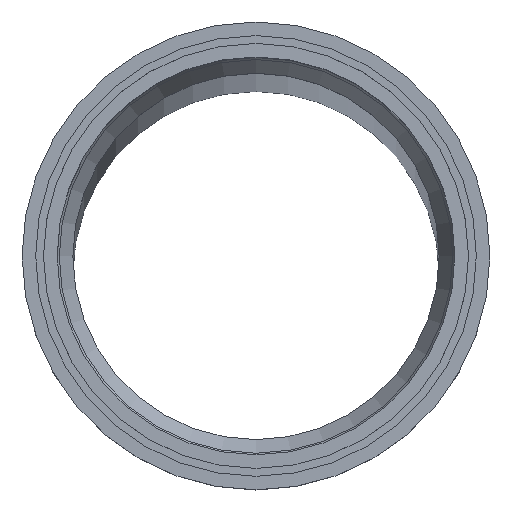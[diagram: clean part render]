
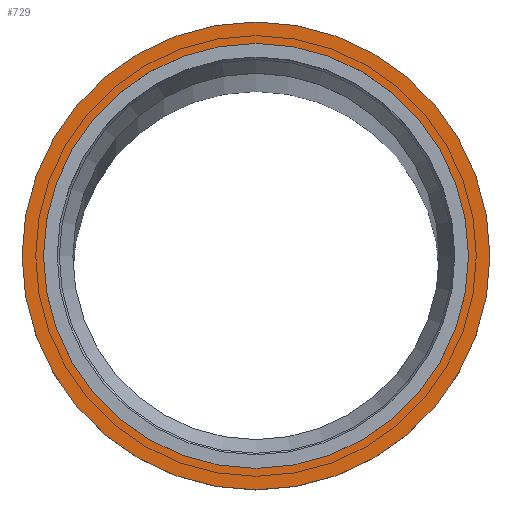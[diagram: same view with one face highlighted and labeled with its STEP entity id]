
A CAD part, top view. The second image highlights one B-rep face of the part: STEP entity #729.
In plain terms, the highlighted planar face has unit normal (0, 0, 1) as drawn and (1, 0, 0) by its records, which use the part's own axes.
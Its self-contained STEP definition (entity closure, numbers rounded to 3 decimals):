
#110=PLANE($,#811);
#138=FACE_BOUND($,#249,.T.);
#139=FACE_BOUND($,#250,.T.);
#249=EDGE_LOOP($,(#620));
#250=EDGE_LOOP($,(#621));
#299=CIRCLE($,#810,44.7);
#300=CIRCLE($,#812,40.6);
#370=VERTEX_POINT($,#1943);
#371=VERTEX_POINT($,#1946);
#457=EDGE_CURVE($,#370,#370,#299,.T.);
#458=EDGE_CURVE($,#371,#371,#300,.T.);
#620=ORIENTED_EDGE($,*,*,#458,.F.);
#621=ORIENTED_EDGE($,*,*,#457,.T.);
#729=ADVANCED_FACE($,(#138,#139),#110,.T.);
#810=AXIS2_PLACEMENT_3D($,#1944,#967,#968);
#811=AXIS2_PLACEMENT_3D($,#1945,#969,#970);
#812=AXIS2_PLACEMENT_3D($,#1947,#971,#972);
#967=DIRECTION('center_axis',(1.,0.,0.));
#968=DIRECTION('ref_axis',(0.,1.,0.));
#969=DIRECTION('center_axis',(1.,0.,0.));
#970=DIRECTION('ref_axis',(0.,0.,-1.));
#971=DIRECTION('center_axis',(1.,0.,0.));
#972=DIRECTION('ref_axis',(0.,1.,0.));
#1943=CARTESIAN_POINT('',(62.6,44.7,0.));
#1944=CARTESIAN_POINT('Origin',(62.6,0.,0.));
#1945=CARTESIAN_POINT('Origin',(62.6,42.65,0.));
#1946=CARTESIAN_POINT('',(62.6,40.6,0.));
#1947=CARTESIAN_POINT('Origin',(62.6,0.,0.));
